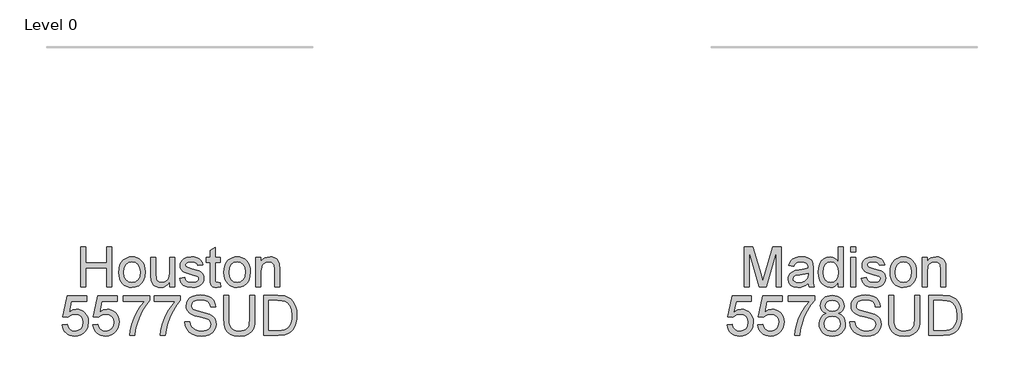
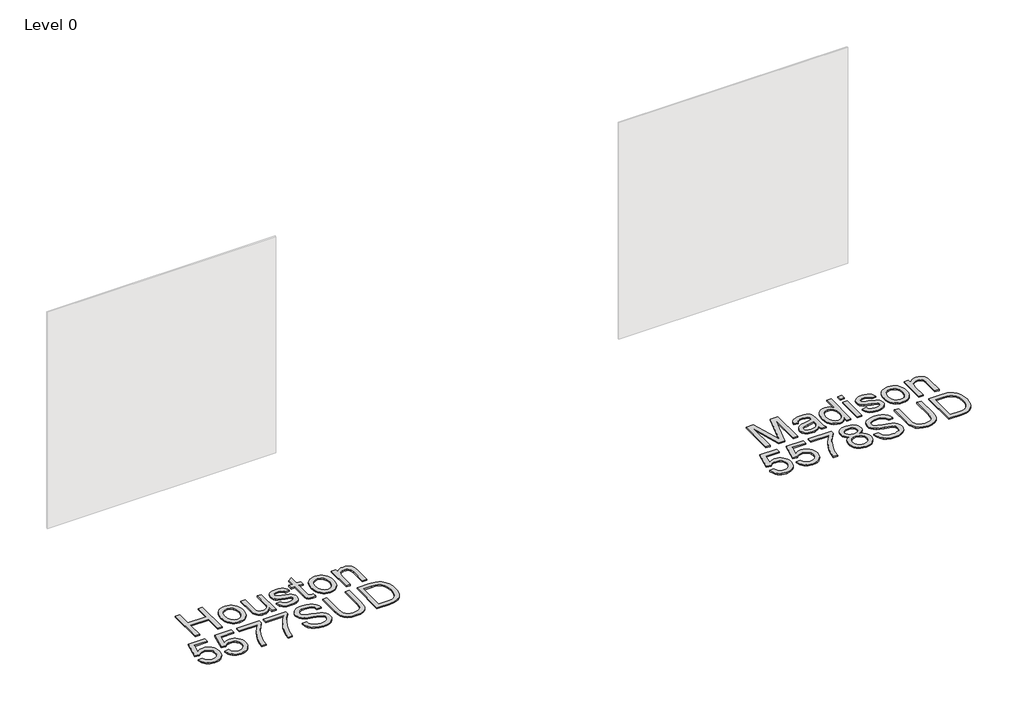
# One storey, part 10 of 12: 2 proxies.
"""IFC4 building model written with IfcOpenShell, lengths in millimetres."""

from ifc_helpers import new_model, si_unit, origin, origin_with_axes, place, context, project, spatial, polyline, outline, extrude, element, save

model = new_model("IFC4")

# Units and contexts
model_context = context("Model", 3, world=origin())
ifc_project = project(units=[si_unit("LENGTHUNIT", "METRE", prefix="MILLI")], contexts=[model_context])

# Site, building, storey
site = spatial("IfcSite", under=ifc_project)
building = spatial("IfcBuilding", under=site)
storey = spatial("IfcBuildingStorey", under=building, Name="Level 0", Elevation=0.0)

# Proxies
placement = place(None, origin())
element("IfcBuildingElementProxy", 1, Name="300mm Arial", ObjectType="300mm Arial", at=placement, inside=storey, context=model_context, shape_type="SweptSolid", body=[
    extrude(outline(polyline([(-194.6626034, -7002.860494), (-194.6626034, -6701.4915635), (-156.991487, -6701.4915635), (-156.991487, -6823.9226915), (3.1107573, -6823.9226915), (3.1107573, -6701.4915635), (40.7818736, -6701.4915635), (40.7818736, -7002.860494), (3.1107573, -7002.860494), (3.1107573, -6861.5938078), (-156.991487, -6861.5938078), (-156.991487, -7002.860494), (-194.6626034, -7002.860494)])), origin_with_axes(), (0.0, 0.0, 1.0), 10.0),
    extrude(outline(polyline([(92.5796585, -6892.2015898), (94.616805, -6863.5389839), (100.7282447, -6838.8403064), (110.9139774, -6818.1055575), (125.1740033, -6801.334737), (139.5305981, -6790.6155754), (155.3771151, -6782.9590314), (172.7135541, -6778.3651049), (191.5399152, -6776.8337961), (212.3229486, -6778.698498), (231.1148208, -6784.2926036), (247.9155317, -6793.6161129), (262.7250813, -6806.669026), (274.8123041, -6823.0098843), (283.4460346, -6842.1972296), (288.626273, -6864.2310619), (290.3530191, -6889.1113811), (287.2995985, -6927.1687735), (278.1393368, -6956.1394806), (263.1389485, -6977.8353213), (242.5651479, -6994.0681143), (218.1285864, -7004.1940662), (191.5399152, -7007.5693835), (170.4533791, -7005.7115794), (151.486763, -7000.1381672), (134.6400668, -6990.8491468), (119.9132907, -6977.8445183), (107.9548266, -6961.3450108), (99.4130665, -6941.5713536), (94.2880105, -6918.5235466), (92.5796585, -6892.2015898)]), holes=[polyline([(130.2507748, -6892.1280134), (134.6101764, -6926.2214773), (147.6883814, -6950.5108861), (167.3700681, -6965.0514219), (191.5399152, -6969.8982672), (215.5993977, -6965.0238308), (235.2442962, -6950.4005215), (248.3225011, -6925.789216), (252.6819028, -6890.950791), (248.29491, -6857.8506085), (235.1339316, -6833.8922936), (215.4614419, -6819.3517577), (191.5399152, -6814.5049125), (167.3700681, -6819.3333636), (147.6883814, -6833.8187172), (134.6101764, -6858.0529436), (130.2507748, -6892.1280134)])]), origin_with_axes(), (0.0, 0.0, 1.0), 10.0),
    extrude(outline(polyline([(473.9997111, -7002.860494), (473.9997111, -6964.8214957), (460.3696832, -6983.5236966), (444.4955751, -6996.8824116), (426.3773868, -7004.8976405), (406.0151184, -7007.5693835), (387.6670039, -7005.6931853), (370.5880822, -7000.0645908), (356.2590785, -6991.6033049), (346.1607178, -6981.2290327), (334.9403169, -6953.4907302), (332.7330249, -6918.4683643), (332.7330249, -6781.5426857), (370.4041412, -6781.5426857), (370.4041412, -6900.7364521), (372.6850096, -6939.1433324), (378.1756484, -6951.9548229), (387.5842304, -6961.6944987), (400.2853563, -6967.8473251), (415.6536266, -6969.8982672), (431.9048138, -6967.8013398), (447.1075372, -6961.5105577), (459.6431162, -6951.605335), (467.89287, -6938.6650858), (472.4730008, -6920.9423707), (473.9997111, -6896.6897502), (473.9997111, -6781.5426857), (511.6708274, -6781.5426857), (511.6708274, -7002.860494), (473.9997111, -7002.860494)])), origin_with_axes(), (0.0, 0.0, 1.0), 10.0),
    extrude(outline(polyline([(549.3419437, -6936.9360404), (587.01306, -6932.2271509), (592.9543542, -6948.3403823), (604.4506666, -6960.1861825), (621.5755734, -6967.470246), (644.4026512, -6969.8982672), (666.9538176, -6967.6725811), (682.8095315, -6960.9955229), (692.1905224, -6951.3202265), (695.3175194, -6940.0998256), (692.1721283, -6930.4981055), (682.7359551, -6923.1772538), (643.9611929, -6912.4350996), (587.2337892, -6894.0042116), (572.8771943, -6884.7427824), (562.4753309, -6872.4831149), (556.1569577, -6858.0069584), (554.0508332, -6842.0960621), (555.7430904, -6827.5003439), (560.8198619, -6814.0266659), (568.8212953, -6802.2084568), (579.2875381, -6792.5791455), (603.236656, -6781.4323211), (635.6470598, -6776.8337961), (660.1663947, -6778.6824032), (681.4851564, -6784.2282242), (698.6284573, -6792.9286334), (710.6214104, -6804.2410048), (718.5676615, -6819.0022698), (723.5708566, -6838.0493601), (685.8997403, -6842.7582497), (681.1448655, -6830.9032524), (671.7362835, -6821.972917), (657.5820237, -6816.3719136), (638.5901157, -6814.5049125), (616.9586544, -6816.2891401), (602.5376802, -6821.6418232), (594.4258822, -6829.3673451), (591.7219495, -6838.2700893), (596.2101099, -6849.2329728), (610.2632021, -6857.5471059), (642.7103941, -6865.5669334), (698.0030579, -6883.2988455), (712.6079732, -6891.7785255), (723.6812212, -6903.3852025), (730.6617821, -6918.1556646), (732.9886357, -6936.1267001), (730.2571119, -6954.7047408), (722.0625404, -6972.1791356), (708.7176211, -6987.1795239), (690.5350534, -6998.3355454), (668.5724983, -7005.260924), (643.8876165, -7007.5693835), (605.9038005, -7003.1180114), (578.1838921, -6989.763895), (559.6794278, -6967.654187), (549.3419437, -6936.9360404)])), origin_with_axes(), (0.0, 0.0, 1.0), 10.0),
    extrude(outline(polyline([(855.4197637, -6971.4433716), (860.1286532, -7003.96414), (831.9488924, -7007.5693835), (813.8674923, -7006.005885), (800.3846172, -7001.3153896), (790.8564735, -6994.0865084), (784.6392678, -6984.9078526), (781.2179653, -6969.1441091), (780.0775311, -6942.1599648), (780.0775311, -6819.213802), (751.8241938, -6819.213802), (751.8241938, -6781.5426857), (780.0775311, -6781.5426857), (780.0775311, -6727.758338), (817.7486474, -6705.6118419), (817.7486474, -6781.5426857), (855.4197637, -6781.5426857), (855.4197637, -6819.213802), (817.7486474, -6819.213802), (817.7486474, -6941.0563188), (819.7352101, -6960.4804881), (826.1731451, -6967.3598814), (839.0122267, -6969.8982672), (855.4197637, -6971.4433716)])), origin_with_axes(), (0.0, 0.0, 1.0), 10.0),
    extrude(outline(polyline([(883.6731009, -6892.2015898), (885.7102475, -6863.5389839), (891.8216871, -6838.8403064), (902.0074198, -6818.1055575), (916.2674457, -6801.334737), (930.6240405, -6790.6155754), (946.4705575, -6782.9590314), (963.8069965, -6778.3651049), (982.6333576, -6776.8337961), (1003.4163911, -6778.698498), (1022.2082632, -6784.2926036), (1039.0089741, -6793.6161129), (1053.8185237, -6806.669026), (1065.9057465, -6823.0098843), (1074.5394771, -6842.1972296), (1079.7197154, -6864.2310619), (1081.4464615, -6889.1113811), (1078.393041, -6927.1687735), (1069.2327793, -6956.1394806), (1054.2323909, -6977.8353213), (1033.6585903, -6994.0681143), (1009.2220288, -7004.1940662), (982.6333576, -7007.5693835), (961.5468215, -7005.7115794), (942.5802054, -7000.1381672), (925.7335093, -6990.8491468), (911.0067332, -6977.8445183), (899.048269, -6961.3450108), (890.506509, -6941.5713536), (885.3814529, -6918.5235466), (883.6731009, -6892.2015898)]), holes=[polyline([(921.3442172, -6892.1280134), (925.7036189, -6926.2214773), (938.7818238, -6950.5108861), (958.4635105, -6965.0514219), (982.6333576, -6969.8982672), (1006.6928401, -6965.0238308), (1026.3377386, -6950.4005215), (1039.4159436, -6925.789216), (1043.7753452, -6890.950791), (1039.3883524, -6857.8506085), (1026.227374, -6833.8922936), (1006.5548843, -6819.3517577), (982.6333576, -6814.5049125), (958.4635105, -6819.3333636), (938.7818238, -6833.8187172), (925.7036189, -6858.0529436), (921.3442172, -6892.1280134)])]), origin_with_axes(), (0.0, 0.0, 1.0), 10.0),
    extrude(outline(polyline([(1123.8264674, -7002.860494), (1123.8264674, -6781.5426857), (1161.4975837, -6781.5426857), (1161.4975837, -6812.4447733), (1174.5849856, -6796.8649708), (1190.3027439, -6785.7365404), (1208.6508584, -6779.0594822), (1229.6293292, -6776.8337961), (1248.1981729, -6778.6272209), (1265.2035181, -6784.0074951), (1279.385369, -6792.303234), (1289.4837298, -6802.8430532), (1300.777707, -6830.5445674), (1302.7642698, -6866.964885), (1302.7642698, -7002.860494), (1265.0931535, -7002.860494), (1265.0931535, -6872.0416565), (1260.752146, -6838.7115477), (1254.7464724, -6828.7879309), (1245.4114668, -6821.0900002), (1233.4461049, -6816.1511844), (1219.5493625, -6814.5049125), (1197.4856398, -6818.2021265), (1178.6776728, -6829.2937687), (1171.1613838, -6838.3482643), (1165.792606, -6850.7228949), (1161.4975837, -6885.4325611), (1161.4975837, -7002.860494), (1123.8264674, -7002.860494)])), origin_with_axes(), (0.0, 0.0, 1.0), 10.0),
    extrude(outline(polyline([(-333.5748447, -7288.7338254), (-295.9037284, -7284.0249358), (-288.9875469, -7306.6404815), (-276.9210175, -7322.8364863), (-259.7593224, -7332.5761621), (-237.557644, -7335.8227207), (-210.5551055, -7331.3069693), (-190.3215958, -7317.7597148), (-177.6848493, -7296.7444558), (-173.4726004, -7269.8246908), (-177.4181348, -7244.4776213), (-189.254738, -7225.0902402), (-209.0743805, -7212.7845875), (-236.9690328, -7208.6827032), (-255.2435709, -7210.3197781), (-270.0416242, -7215.2310027), (-291.1948389, -7232.2271509), (-328.8659552, -7227.5182614), (-295.9037284, -7072.1249066), (-149.9281527, -7072.1249066), (-149.9281527, -7109.7960229), (-265.4430992, -7109.7960229), (-281.5563306, -7192.790201), (-254.6457627, -7176.4562404), (-226.4476077, -7171.0115869), (-208.1017925, -7172.6992456), (-191.2504978, -7177.7622215), (-175.8937238, -7186.2005148), (-162.0314704, -7198.0141254), (-150.5558514, -7212.4810848), (-142.3589807, -7228.8794248), (-137.4408583, -7247.2091452), (-135.8014841, -7267.470246), (-141.7059901, -7305.1413624), (-149.0866227, -7321.9351754), (-159.4195082, -7337.3678251), (-175.0728871, -7353.1729553), (-193.3382282, -7364.4623341), (-214.2155314, -7371.2359613), (-237.7047968, -7373.4938371), (-274.7045285, -7367.6904986), (-290.3831992, -7360.4363255), (-304.1810733, -7350.2804832), (-315.6612908, -7337.7288093), (-324.3869919, -7323.2871418), (-333.5748447, -7288.7338254)])), origin_with_axes(), (0.0, 0.0, 1.0), 10.0),
    extrude(outline(polyline([(-102.8392574, -7288.7338254), (-65.1681411, -7284.0249358), (-58.2519595, -7306.6404815), (-46.1854301, -7322.8364863), (-29.023735, -7332.5761621), (-6.8220566, -7335.8227207), (20.1804818, -7331.3069693), (40.4139916, -7317.7597148), (53.0507381, -7296.7444558), (57.2629869, -7269.8246908), (53.3174525, -7244.4776213), (41.4808494, -7225.0902402), (21.6612069, -7212.7845875), (-6.2334454, -7208.6827032), (-24.5079835, -7210.3197781), (-39.3060368, -7215.2310027), (-60.4592515, -7232.2271509), (-98.1303678, -7227.5182614), (-65.1681411, -7072.1249066), (80.8074346, -7072.1249066), (80.8074346, -7109.7960229), (-34.7075119, -7109.7960229), (-50.8207432, -7192.790201), (-23.9101753, -7176.4562404), (4.2879796, -7171.0115869), (22.6337949, -7172.6992456), (39.4850895, -7177.7622215), (54.8418636, -7186.2005148), (68.704117, -7198.0141254), (80.179736, -7212.4810848), (88.3766067, -7228.8794248), (93.2947291, -7247.2091452), (94.9341033, -7267.470246), (89.0295972, -7305.1413624), (81.6489647, -7321.9351754), (71.3160792, -7337.3678251), (55.6627003, -7353.1729553), (37.3973592, -7364.4623341), (16.520056, -7371.2359613), (-6.9692094, -7373.4938371), (-43.9689411, -7367.6904986), (-59.6476119, -7360.4363255), (-73.4454859, -7350.2804832), (-84.9257035, -7337.7288093), (-93.6514045, -7323.2871418), (-102.8392574, -7288.7338254)])), origin_with_axes(), (0.0, 0.0, 1.0), 10.0),
    extrude(outline(polyline([(127.89633, -7109.7960229), (127.89633, -7072.1249066), (325.6696906, -7072.1249066), (325.6696906, -7102.5855358), (297.4807327, -7138.2608923), (269.5676864, -7183.6299393), (244.9471838, -7234.5540045), (226.6358575, -7286.8944154), (217.6595368, -7326.0554538), (212.6563417, -7368.7849475), (174.9852254, -7368.7849475), (179.0595185, -7329.9550029), (189.9580226, -7283.8042066), (207.3864321, -7234.8850983), (231.0504415, -7187.7502177), (258.6783793, -7145.1402856), (287.9985743, -7109.7960229), (127.89633, -7109.7960229)])), origin_with_axes(), (0.0, 0.0, 1.0), 10.0),
    extrude(outline(polyline([(358.6319174, -7109.7960229), (358.6319174, -7072.1249066), (556.405278, -7072.1249066), (556.405278, -7102.5855358), (528.2163201, -7138.2608923), (500.3032737, -7183.6299393), (475.6827712, -7234.5540045), (457.3714449, -7286.8944154), (448.3951242, -7326.0554538), (443.3919291, -7368.7849475), (405.7208128, -7368.7849475), (409.7951059, -7329.9550029), (420.69361, -7283.8042066), (438.1220195, -7234.8850983), (461.7860288, -7187.7502177), (489.4139667, -7145.1402856), (518.7341617, -7109.7960229), (358.6319174, -7109.7960229)])), origin_with_axes(), (0.0, 0.0, 1.0), 10.0),
    extrude(outline(polyline([(589.3675048, -7265.1893777), (627.0386211, -7265.1893777), (631.3612345, -7286.0942721), (639.1787269, -7302.8972822), (651.3740151, -7316.2330045), (668.8300157, -7326.7360355), (690.1671714, -7333.5510494), (714.0059247, -7335.8227207), (734.9935926, -7334.1028724), (753.3692982, -7328.9433274), (768.259322, -7320.7763471), (778.7899441, -7310.0341929), (785.0531351, -7297.700949), (787.1408654, -7284.7606998), (785.5773669, -7272.1515444), (780.8868715, -7261.2530403), (771.3587278, -7251.9548229), (755.2822846, -7244.1465276), (700.4310791, -7229.7623415), (664.4246288, -7220.2433949), (641.3860189, -7211.1843008), (622.6332342, -7198.510766), (609.3434971, -7183.1516928), (601.4248372, -7165.4381747), (598.7852838, -7145.7013056), (602.0502366, -7123.637583), (611.8450947, -7103.0637824), (627.9123408, -7085.6261758), (649.9944576, -7072.9710352), (676.5003553, -7065.2731044), (705.8389444, -7062.7071275), (737.6239488, -7065.3926661), (765.4358277, -7073.4492818), (788.2812996, -7086.7114277), (805.1670831, -7105.013557), (815.8540551, -7127.2152354), (820.1030921, -7152.1760288), (782.4319758, -7152.1760288), (775.5157943, -7129.6984389), (761.0948201, -7113.4748429), (738.5620479, -7103.6523936), (707.3104724, -7100.3782438), (675.3231329, -7103.6156054), (653.3789719, -7113.3276901), (640.6870431, -7127.6199056), (636.4564002, -7144.5976597), (639.4546384, -7159.0738162), (648.4493532, -7170.7172813), (669.7129325, -7181.1283418), (709.9592228, -7191.7601314), (751.4931, -7201.8584922), (776.6194403, -7210.669266), (798.0945518, -7224.3360821), (813.076546, -7241.2034716), (821.8781228, -7261.0874934), (824.8119817, -7283.8042066), (821.4366644, -7307.0267576), (811.3107125, -7328.869751), (794.8479932, -7347.668521), (772.4623738, -7361.7584014), (745.5426088, -7370.5599781), (715.4774527, -7373.4938371), (678.5696915, -7370.3300519), (648.1918358, -7360.8386964), (623.9943976, -7344.9829824), (605.627889, -7322.7261217), (593.837271, -7295.6132187), (589.3675048, -7265.1893777)])), origin_with_axes(), (0.0, 0.0, 1.0), 10.0),
    extrude(outline(polyline([(1079.0920167, -7067.4160171), (1116.7631331, -7067.4160171), (1116.7631331, -7241.277048), (1114.2063532, -7281.9923878), (1106.5360136, -7313.3451308), (1092.2070099, -7337.533372), (1069.6742377, -7356.7552063), (1038.8825147, -7369.3091794), (999.7766586, -7373.4938371), (961.5261281, -7369.8518053), (930.9459373, -7358.92571), (908.026889, -7341.0926303), (892.7597862, -7316.7296452), (884.1789387, -7284.052527), (881.3186561, -7241.277048), (881.3186561, -7067.4160171), (918.9897724, -7067.4160171), (918.9897724, -7239.9526728), (920.8475765, -7273.8070134), (926.4209887, -7297.3790523), (936.5193495, -7313.7038158), (951.9519992, -7325.8163305), (972.0751444, -7333.3211232), (996.2449914, -7335.8227207), (1034.5599012, -7330.8747079), (1048.9027005, -7324.6896919), (1060.0357294, -7316.0306694), (1068.3728551, -7303.8537754), (1074.3279449, -7287.1151446), (1079.0920167, -7239.9526728), (1079.0920167, -7067.4160171)])), origin_with_axes(), (0.0, 0.0, 1.0), 10.0),
    extrude(outline(polyline([(1182.6875866, -7368.7849475), (1182.6875866, -7067.4160171), (1286.6510384, -7067.4160171), (1340.4353861, -7071.7570246), (1364.4580804, -7080.12634), (1384.7283783, -7093.3149095), (1405.5688934, -7116.270746), (1420.4129319, -7144.8183889), (1429.2972821, -7178.406015), (1432.2587321, -7216.4818015), (1430.2537752, -7248.8278259), (1424.2389046, -7277.2926953), (1415.0786429, -7301.5269217), (1403.6375129, -7321.1810173), (1390.4673375, -7336.6964405), (1376.1199397, -7348.5146496), (1359.6480233, -7357.2794381), (1340.1042923, -7363.6345996), (1291.6542336, -7368.7849475), (1182.6875866, -7368.7849475)]), holes=[polyline([(1220.3587029, -7331.1138312), (1287.0189204, -7331.1138312), (1314.591676, -7329.7526678), (1335.5057674, -7325.6691777), (1351.287905, -7319.1024841), (1363.464799, -7310.2917103), (1376.552201, -7293.9853408), (1386.3838473, -7272.8781114), (1392.5366737, -7246.8780514), (1394.5876158, -7215.8931903), (1390.568505, -7174.8375597), (1378.5111726, -7144.5240833), (1360.696487, -7123.7019623), (1339.4053165, -7111.1203981), (1317.737067, -7106.5954496), (1285.9888508, -7105.0871334), (1220.3587029, -7105.0871334), (1220.3587029, -7331.1138312)])]), origin_with_axes(), (0.0, 0.0, 1.0), 10.0),
])
element("IfcBuildingElementProxy", 2, Name="300mm Arial", ObjectType="300mm Arial", at=placement, inside=storey, context=model_context, shape_type="SweptSolid", body=[
    extrude(outline(polyline([(4795.9196176, -7002.860494), (4795.9196176, -6701.4915635), (4860.7404251, -6701.4915635), (4922.3974475, -6913.9066275), (4934.8318589, -6958.2731962), (4948.29634, -6910.2278076), (5008.9232928, -6701.4915635), (5073.7441003, -6701.4915635), (5073.7441003, -7002.860494), (5036.072984, -7002.860494), (5036.072984, -6739.1626798), (4960.3628694, -7002.860494), (4909.3008485, -7002.860494), (4833.5907339, -6739.1626798), (4833.5907339, -7002.860494), (4795.9196176, -7002.860494)])), origin_with_axes(), (0.0, 0.0, 1.0), 10.0),
    extrude(outline(polyline([(5276.2263505, -6974.6071568), (5258.2277239, -6990.0398064), (5239.6956684, -7000.1381672), (5220.2071197, -7005.7115794), (5199.3390135, -7007.5693835), (5167.8575117, -7003.0996173), (5144.6349608, -6989.6903186), (5130.3151541, -6969.3280501), (5125.5418852, -6943.9993748), (5127.344507, -6928.3827841), (5132.7523724, -6914.2009331), (5141.0940966, -6902.0608273), (5151.6982951, -6892.5694718), (5178.0754342, -6880.2086368), (5210.6697789, -6874.5432541), (5249.1870238, -6868.5835657), (5276.0056213, -6861.5938078), (5276.2263505, -6853.2060983), (5273.6327824, -6836.3938912), (5265.8520782, -6825.3942195), (5248.4512598, -6817.2272392), (5224.2078364, -6814.5049125), (5201.7670346, -6816.3167313), (5186.0952617, -6821.7521878), (5175.4082897, -6831.8045633), (5167.9218911, -6847.4671392), (5130.2507748, -6842.7582497), (5136.7898773, -6822.156858), (5146.5479472, -6805.9700502), (5160.4354925, -6793.590821), (5179.3630211, -6784.4121652), (5202.5119957, -6778.7283884), (5229.0638787, -6776.8337961), (5254.5305098, -6778.5076592), (5274.7180343, -6783.5292485), (5289.9391518, -6791.0800264), (5300.5065622, -6800.3414556), (5307.5147142, -6811.7917827), (5312.0580568, -6825.9092543), (5313.8974668, -6858.8714811), (5313.8974668, -6905.7396473), (5315.8104532, -6971.1858542), (5323.3152459, -7002.860494), (5285.6441296, -7002.860494), (5276.2263505, -6974.6071568)]), holes=[polyline([(5276.2263505, -6899.2649241), (5215.4522449, -6910.8164188), (5183.0418411, -6916.9232599), (5168.3633495, -6926.8560738), (5163.2130016, -6941.3506244), (5166.0181018, -6952.5526311), (5174.4334024, -6961.7312869), (5188.2749625, -6967.8565221), (5207.358841, -6969.8982672), (5227.5923507, -6967.64499), (5245.4714157, -6960.8851583), (5259.9659663, -6950.9247533), (5270.045933, -6939.069756), (5274.5156992, -6926.8560738), (5276.0056213, -6909.933502), (5276.2263505, -6899.2649241)])]), origin_with_axes(), (0.0, 0.0, 1.0), 10.0),
    extrude(outline(polyline([(5502.2530483, -7002.860494), (5502.2530483, -6967.3230932), (5490.9820637, -6984.9308452), (5477.3290431, -6997.507811), (5461.2939867, -7005.0539904), (5442.8768943, -7007.5693835), (5418.5231062, -7003.9273518), (5396.2294573, -6993.0012565), (5377.3571109, -6975.5544529), (5363.2672305, -6952.350296), (5354.4932449, -6924.3268851), (5351.5685831, -6892.422319), (5354.2633187, -6860.9132261), (5362.3475255, -6832.4575538), (5375.8120066, -6808.6739828), (5394.6475647, -6791.181194), (5417.4286573, -6780.4206456), (5442.7297415, -6776.8337961), (5461.1606294, -6779.3997731), (5477.4578018, -6787.0977038), (5491.2717708, -6798.8975188), (5502.2530483, -6813.7691485), (5502.2530483, -6701.4915635), (5539.9241646, -6701.4915635), (5539.9241646, -7002.860494), (5502.2530483, -7002.860494)]), holes=[polyline([(5389.2396994, -6892.2751662), (5393.4887364, -6926.350236), (5406.2358476, -6950.5844625), (5424.758706, -6965.069816), (5446.334985, -6969.8982672), (5467.902067, -6965.2905452), (5485.9558759, -6951.4673793), (5498.1787552, -6928.1712519), (5502.2530483, -6895.1446458), (5498.1051788, -6859.037028), (5485.6615703, -6834.0026582), (5467.1479089, -6819.3793489), (5444.7898807, -6814.5049125), (5422.9928724, -6819.1862108), (5405.1322016, -6833.230106), (5393.2128249, -6857.3539678), (5389.2396994, -6892.2751662)])]), origin_with_axes(), (0.0, 0.0, 1.0), 10.0),
    extrude(outline(polyline([(5596.4308391, -6739.1626798), (5596.4308391, -6701.4915635), (5634.1019554, -6701.4915635), (5634.1019554, -6739.1626798), (5596.4308391, -6739.1626798)])), origin_with_axes(), (0.0, 0.0, 1.0), 10.0),
    extrude(outline(polyline([(5596.4308391, -7002.860494), (5596.4308391, -6781.5426857), (5634.1019554, -6781.5426857), (5634.1019554, -7002.860494), (5596.4308391, -7002.860494)])), origin_with_axes(), (0.0, 0.0, 1.0), 10.0),
    extrude(outline(polyline([(5676.4819612, -6936.9360404), (5714.1530775, -6932.2271509), (5720.0943718, -6948.3403823), (5731.5906841, -6960.1861825), (5748.715591, -6967.470246), (5771.5426688, -6969.8982672), (5794.0938351, -6967.6725811), (5809.9495491, -6960.9955229), (5819.33054, -6951.3202265), (5822.4575369, -6940.0998256), (5819.3121459, -6930.4981055), (5809.8759727, -6923.1772538), (5771.1012104, -6912.4350996), (5714.3738067, -6894.0042116), (5700.0172119, -6884.7427824), (5689.6153485, -6872.4831149), (5683.2969752, -6858.0069584), (5681.1908508, -6842.0960621), (5682.8831079, -6827.5003439), (5687.9598795, -6814.0266659), (5695.9613129, -6802.2084568), (5706.4275556, -6792.5791455), (5730.3766735, -6781.4323211), (5762.7870773, -6776.8337961), (5787.3064123, -6778.6824032), (5808.6251739, -6784.2282242), (5825.7684749, -6792.9286334), (5837.7614279, -6804.2410048), (5845.707679, -6819.0022698), (5850.7108741, -6838.0493601), (5813.0397578, -6842.7582497), (5808.284883, -6830.9032524), (5798.876301, -6821.972917), (5784.7220413, -6816.3719136), (5765.7301333, -6814.5049125), (5744.0986719, -6816.2891401), (5729.6776977, -6821.6418232), (5721.5658997, -6829.3673451), (5718.8619671, -6838.2700893), (5723.3501274, -6849.2329728), (5737.4032196, -6857.5471059), (5769.8504116, -6865.5669334), (5825.1430755, -6883.2988455), (5839.7479907, -6891.7785255), (5850.8212387, -6903.3852025), (5857.8017996, -6918.1556646), (5860.1286532, -6936.1267001), (5857.3971294, -6954.7047408), (5849.202558, -6972.1791356), (5835.8576386, -6987.1795239), (5817.675071, -6998.3355454), (5795.7125159, -7005.260924), (5771.027634, -7007.5693835), (5733.043818, -7003.1180114), (5705.3239096, -6989.763895), (5686.8194453, -6967.654187), (5676.4819612, -6936.9360404)])), origin_with_axes(), (0.0, 0.0, 1.0), 10.0),
    extrude(outline(polyline([(5893.09088, -6892.2015898), (5895.1280265, -6863.5389839), (5901.2394662, -6838.8403064), (5911.4251989, -6818.1055575), (5925.6852248, -6801.334737), (5940.0418196, -6790.6155754), (5955.8883366, -6782.9590314), (5973.2247756, -6778.3651049), (5992.0511367, -6776.8337961), (6012.8341702, -6778.698498), (6031.6260423, -6784.2926036), (6048.4267532, -6793.6161129), (6063.2363028, -6806.669026), (6075.3235256, -6823.0098843), (6083.9572561, -6842.1972296), (6089.1374945, -6864.2310619), (6090.8642406, -6889.1113811), (6087.81082, -6927.1687735), (6078.6505584, -6956.1394806), (6063.65017, -6977.8353213), (6043.0763694, -6994.0681143), (6018.6398079, -7004.1940662), (5992.0511367, -7007.5693835), (5970.9646006, -7005.7115794), (5951.9979845, -7000.1381672), (5935.1512883, -6990.8491468), (5920.4245122, -6977.8445183), (5908.4660481, -6961.3450108), (5899.924288, -6941.5713536), (5894.799232, -6918.5235466), (5893.09088, -6892.2015898)]), holes=[polyline([(5930.7619963, -6892.1280134), (5935.1213979, -6926.2214773), (5948.1996029, -6950.5108861), (5967.8812896, -6965.0514219), (5992.0511367, -6969.8982672), (6016.1106192, -6965.0238308), (6035.7555177, -6950.4005215), (6048.8337226, -6925.789216), (6053.1931243, -6890.950791), (6048.8061315, -6857.8506085), (6035.6451531, -6833.8922936), (6015.9726634, -6819.3517577), (5992.0511367, -6814.5049125), (5967.8812896, -6819.3333636), (5948.1996029, -6833.8187172), (5935.1213979, -6858.0529436), (5930.7619963, -6892.1280134)])]), origin_with_axes(), (0.0, 0.0, 1.0), 10.0),
    extrude(outline(polyline([(6133.2442464, -7002.860494), (6133.2442464, -6781.5426857), (6170.9153627, -6781.5426857), (6170.9153627, -6812.4447733), (6184.0027647, -6796.8649708), (6199.720523, -6785.7365404), (6218.0686375, -6779.0594822), (6239.0471083, -6776.8337961), (6257.615952, -6778.6272209), (6274.6212972, -6784.0074951), (6288.8031481, -6792.303234), (6298.9015089, -6802.8430532), (6310.1954861, -6830.5445674), (6312.1820489, -6866.964885), (6312.1820489, -7002.860494), (6274.5109326, -7002.860494), (6274.5109326, -6872.0416565), (6270.169925, -6838.7115477), (6264.1642515, -6828.7879309), (6254.8292458, -6821.0900002), (6242.863884, -6816.1511844), (6228.9671416, -6814.5049125), (6206.9034189, -6818.2021265), (6188.0954519, -6829.2937687), (6180.5791629, -6838.3482643), (6175.210385, -6850.7228949), (6170.9153627, -6885.4325611), (6170.9153627, -7002.860494), (6133.2442464, -7002.860494)])), origin_with_axes(), (0.0, 0.0, 1.0), 10.0),
    extrude(outline(polyline([(4666.4251553, -7288.7338254), (4704.0962716, -7284.0249358), (4711.0124531, -7306.6404815), (4723.0789825, -7322.8364863), (4740.2406776, -7332.5761621), (4762.442356, -7335.8227207), (4789.4448945, -7331.3069693), (4809.6784042, -7317.7597148), (4822.3151507, -7296.7444558), (4826.5273996, -7269.8246908), (4822.5818652, -7244.4776213), (4810.745262, -7225.0902402), (4790.9256195, -7212.7845875), (4763.0309672, -7208.6827032), (4744.7564291, -7210.3197781), (4729.9583758, -7215.2310027), (4708.8051611, -7232.2271509), (4671.1340448, -7227.5182614), (4704.0962716, -7072.1249066), (4850.0718473, -7072.1249066), (4850.0718473, -7109.7960229), (4734.5569008, -7109.7960229), (4718.4436694, -7192.790201), (4745.3542373, -7176.4562404), (4773.5523923, -7171.0115869), (4791.8982075, -7172.6992456), (4808.7495022, -7177.7622215), (4824.1062762, -7186.2005148), (4837.9685296, -7198.0141254), (4849.4441486, -7212.4810848), (4857.6410193, -7228.8794248), (4862.5591417, -7247.2091452), (4864.1985159, -7267.470246), (4858.2940099, -7305.1413624), (4850.9133773, -7321.9351754), (4840.5804918, -7337.3678251), (4824.9271129, -7353.1729553), (4806.6617718, -7364.4623341), (4785.7844686, -7371.2359613), (4762.2952032, -7373.4938371), (4725.2954715, -7367.6904986), (4709.6168008, -7360.4363255), (4695.8189267, -7350.2804832), (4684.3387092, -7337.7288093), (4675.6130081, -7323.2871418), (4666.4251553, -7288.7338254)])), origin_with_axes(), (0.0, 0.0, 1.0), 10.0),
    extrude(outline(polyline([(4897.1607426, -7288.7338254), (4934.8318589, -7284.0249358), (4941.7480405, -7306.6404815), (4953.8145699, -7322.8364863), (4970.976265, -7332.5761621), (4993.1779434, -7335.8227207), (5020.1804818, -7331.3069693), (5040.4139916, -7317.7597148), (5053.0507381, -7296.7444558), (5057.2629869, -7269.8246908), (5053.3174525, -7244.4776213), (5041.4808494, -7225.0902402), (5021.6612069, -7212.7845875), (4993.7665546, -7208.6827032), (4975.4920165, -7210.3197781), (4960.6939632, -7215.2310027), (4939.5407485, -7232.2271509), (4901.8696322, -7227.5182614), (4934.8318589, -7072.1249066), (5080.8074346, -7072.1249066), (5080.8074346, -7109.7960229), (4965.2924882, -7109.7960229), (4949.1792568, -7192.790201), (4976.0898247, -7176.4562404), (5004.2879796, -7171.0115869), (5022.6337949, -7172.6992456), (5039.4850895, -7177.7622215), (5054.8418636, -7186.2005148), (5068.704117, -7198.0141254), (5080.179736, -7212.4810848), (5088.3766067, -7228.8794248), (5093.2947291, -7247.2091452), (5094.9341033, -7267.470246), (5089.0295972, -7305.1413624), (5081.6489647, -7321.9351754), (5071.3160792, -7337.3678251), (5055.6627003, -7353.1729553), (5037.3973592, -7364.4623341), (5016.520056, -7371.2359613), (4993.0307906, -7373.4938371), (4956.0310589, -7367.6904986), (4940.3523881, -7360.4363255), (4926.5545141, -7350.2804832), (4915.0742965, -7337.7288093), (4906.3485955, -7323.2871418), (4897.1607426, -7288.7338254)])), origin_with_axes(), (0.0, 0.0, 1.0), 10.0),
    extrude(outline(polyline([(5127.89633, -7109.7960229), (5127.89633, -7072.1249066), (5325.6696906, -7072.1249066), (5325.6696906, -7102.5855358), (5297.4807327, -7138.2608923), (5269.5676864, -7183.6299393), (5244.9471838, -7234.5540045), (5226.6358575, -7286.8944154), (5217.6595368, -7326.0554538), (5212.6563417, -7368.7849475), (5174.9852254, -7368.7849475), (5179.0595185, -7329.9550029), (5189.9580226, -7283.8042066), (5207.3864321, -7234.8850983), (5231.0504415, -7187.7502177), (5258.6783793, -7145.1402856), (5287.9985743, -7109.7960229), (5127.89633, -7109.7960229)])), origin_with_axes(), (0.0, 0.0, 1.0), 10.0),
    extrude(outline(polyline([(5413.5199111, -7202.7965913), (5393.3507807, -7192.8637774), (5379.1965209, -7179.3992964), (5370.8364026, -7162.6790597), (5368.0496965, -7142.9789789), (5369.5672097, -7127.6153071), (5374.1197494, -7113.5300252), (5381.7073155, -7100.7231332), (5392.3299082, -7089.1946312), (5405.477091, -7079.6664875), (5420.6384277, -7072.8606706), (5457.0035629, -7067.4160171), (5493.5894273, -7072.9894293), (5508.9163109, -7079.9561946), (5522.2658288, -7089.709666), (5533.0815595, -7101.4634957), (5540.8070814, -7114.4313361), (5545.4423945, -7128.613187), (5546.9874989, -7144.0090485), (5544.237581, -7163.0745329), (5535.9878273, -7179.509661), (5522.1462672, -7192.8913686), (5502.6209303, -7202.7965913), (5525.8066931, -7214.7435591), (5542.6832796, -7232.3375155), (5552.9747784, -7254.732332), (5556.405278, -7281.0818799), (5554.7038238, -7299.8714528), (5549.5994611, -7317.0975272), (5541.09219, -7332.7601031), (5529.1820104, -7346.8591806), (5514.4943217, -7358.5118428), (5497.6545234, -7366.8351729), (5478.6626154, -7371.829171), (5457.5185977, -7373.4938371), (5436.37458, -7371.8222732), (5417.382672, -7366.8075818), (5400.5428737, -7358.4497627), (5385.855185, -7346.748816), (5373.9450054, -7332.5508703), (5365.4377343, -7316.702054), (5360.3333716, -7299.2023674), (5358.6319174, -7280.0518103), (5362.2003727, -7252.6813898), (5372.9057388, -7230.1670117), (5390.1961926, -7213.2812282), (5413.5199111, -7202.7965913)]), holes=[polyline([(5405.7208128, -7144.0826249), (5409.0593419, -7160.52695), (5419.0749292, -7173.6603373), (5435.4732691, -7182.268776), (5457.9600561, -7185.1382555), (5479.9226112, -7182.2871701), (5496.0726308, -7173.7339137), (5506.0054447, -7161.0419848), (5509.3163826, -7145.774882), (5505.8950801, -7129.9283651), (5495.6311724, -7116.822569), (5479.2604236, -7108.0209923), (5457.5185977, -7105.0871334), (5435.638816, -7107.9566129), (5419.2956584, -7116.5650516), (5409.1145242, -7129.1834041), (5405.7208128, -7144.0826249)]), polyline([(5396.3030337, -7278.7274351), (5402.5938158, -7307.0911369), (5411.3034221, -7319.2588339), (5424.8506765, -7328.317928), (5441.0742725, -7333.9465226), (5457.8129033, -7335.8227207), (5483.4542784, -7331.8771864), (5502.6945067, -7320.0405832), (5514.7242479, -7302.1155329), (5518.7341617, -7279.9046575), (5514.5954892, -7257.316703), (5502.1794719, -7238.9961796), (5482.4977852, -7226.8560738), (5456.5621045, -7222.8093718), (5431.2794144, -7226.8008915), (5412.2323241, -7238.7754504), (5400.2853563, -7256.7464859), (5396.3030337, -7278.7274351)])]), origin_with_axes(), (0.0, 0.0, 1.0), 10.0),
    extrude(outline(polyline([(5589.3675048, -7265.1893777), (5627.0386211, -7265.1893777), (5631.3612345, -7286.0942721), (5639.1787269, -7302.8972822), (5651.3740151, -7316.2330045), (5668.8300157, -7326.7360355), (5690.1671714, -7333.5510494), (5714.0059247, -7335.8227207), (5734.9935926, -7334.1028724), (5753.3692982, -7328.9433274), (5768.259322, -7320.7763471), (5778.7899441, -7310.0341929), (5785.0531351, -7297.700949), (5787.1408654, -7284.7606998), (5785.5773669, -7272.1515444), (5780.8868715, -7261.2530403), (5771.3587278, -7251.9548229), (5755.2822846, -7244.1465276), (5700.4310791, -7229.7623415), (5664.4246288, -7220.2433949), (5641.3860189, -7211.1843008), (5622.6332342, -7198.510766), (5609.3434971, -7183.1516928), (5601.4248372, -7165.4381747), (5598.7852838, -7145.7013056), (5602.0502366, -7123.637583), (5611.8450947, -7103.0637824), (5627.9123408, -7085.6261758), (5649.9944576, -7072.9710352), (5676.5003553, -7065.2731044), (5705.8389444, -7062.7071275), (5737.6239488, -7065.3926661), (5765.4358277, -7073.4492818), (5788.2812996, -7086.7114277), (5805.1670831, -7105.013557), (5815.8540551, -7127.2152354), (5820.1030921, -7152.1760288), (5782.4319758, -7152.1760288), (5775.5157943, -7129.6984389), (5761.0948201, -7113.4748429), (5738.5620479, -7103.6523936), (5707.3104724, -7100.3782438), (5675.3231329, -7103.6156054), (5653.3789719, -7113.3276901), (5640.6870431, -7127.6199056), (5636.4564002, -7144.5976597), (5639.4546384, -7159.0738162), (5648.4493532, -7170.7172813), (5669.7129325, -7181.1283418), (5709.9592228, -7191.7601314), (5751.4931, -7201.8584922), (5776.6194403, -7210.669266), (5798.0945518, -7224.3360821), (5813.076546, -7241.2034716), (5821.8781228, -7261.0874934), (5824.8119817, -7283.8042066), (5821.4366644, -7307.0267576), (5811.3107125, -7328.869751), (5794.8479932, -7347.668521), (5772.4623738, -7361.7584014), (5745.5426088, -7370.5599781), (5715.4774527, -7373.4938371), (5678.5696915, -7370.3300519), (5648.1918358, -7360.8386964), (5623.9943976, -7344.9829824), (5605.627889, -7322.7261217), (5593.837271, -7295.6132187), (5589.3675048, -7265.1893777)])), origin_with_axes(), (0.0, 0.0, 1.0), 10.0),
    extrude(outline(polyline([(6079.0920167, -7067.4160171), (6116.7631331, -7067.4160171), (6116.7631331, -7241.277048), (6114.2063532, -7281.9923878), (6106.5360136, -7313.3451308), (6092.2070099, -7337.533372), (6069.6742377, -7356.7552063), (6038.8825147, -7369.3091794), (5999.7766586, -7373.4938371), (5961.5261281, -7369.8518053), (5930.9459373, -7358.92571), (5908.026889, -7341.0926303), (5892.7597862, -7316.7296452), (5884.1789387, -7284.052527), (5881.3186561, -7241.277048), (5881.3186561, -7067.4160171), (5918.9897724, -7067.4160171), (5918.9897724, -7239.9526728), (5920.8475765, -7273.8070134), (5926.4209887, -7297.3790523), (5936.5193495, -7313.7038158), (5951.9519992, -7325.8163305), (5972.0751444, -7333.3211232), (5996.2449914, -7335.8227207), (6034.5599012, -7330.8747079), (6048.9027005, -7324.6896919), (6060.0357294, -7316.0306694), (6068.3728551, -7303.8537754), (6074.3279449, -7287.1151446), (6079.0920167, -7239.9526728), (6079.0920167, -7067.4160171)])), origin_with_axes(), (0.0, 0.0, 1.0), 10.0),
    extrude(outline(polyline([(6182.6875866, -7368.7849475), (6182.6875866, -7067.4160171), (6286.6510384, -7067.4160171), (6340.4353861, -7071.7570246), (6364.4580804, -7080.12634), (6384.7283783, -7093.3149095), (6405.5688934, -7116.270746), (6420.4129319, -7144.8183889), (6429.2972821, -7178.406015), (6432.2587321, -7216.4818015), (6430.2537752, -7248.8278259), (6424.2389046, -7277.2926953), (6415.0786429, -7301.5269217), (6403.6375129, -7321.1810173), (6390.4673375, -7336.6964405), (6376.1199397, -7348.5146496), (6359.6480233, -7357.2794381), (6340.1042923, -7363.6345996), (6291.6542336, -7368.7849475), (6182.6875866, -7368.7849475)]), holes=[polyline([(6220.3587029, -7331.1138312), (6287.0189204, -7331.1138312), (6314.591676, -7329.7526678), (6335.5057674, -7325.6691777), (6351.287905, -7319.1024841), (6363.464799, -7310.2917103), (6376.552201, -7293.9853408), (6386.3838473, -7272.8781114), (6392.5366737, -7246.8780514), (6394.5876158, -7215.8931903), (6390.568505, -7174.8375597), (6378.5111726, -7144.5240833), (6360.696487, -7123.7019623), (6339.4053165, -7111.1203981), (6317.737067, -7106.5954496), (6285.9888508, -7105.0871334), (6220.3587029, -7105.0871334), (6220.3587029, -7331.1138312)])]), origin_with_axes(), (0.0, 0.0, 1.0), 10.0),
])

save(model, "model.ifc")
